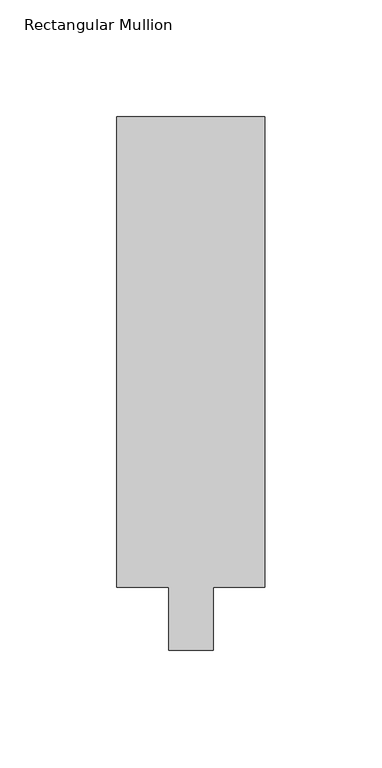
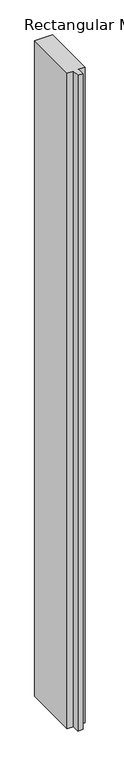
"""IFC4 building model written with IfcOpenShell, lengths in millimetres: member geometry."""

import ifcopenshell
import ifcopenshell.guid

model = None  # the IFC model being written
_history = None  # IfcOwnerHistory: only IFC2X3 demands one
_inside = {}  # id of a spatial element -> (the spatial element, [elements in it])
_under = {}  # id of a project, library or spatial element -> (it, [spatial elements below it])
_declared = {}  # id of a project -> (the project, [libraries it declares])
_typed = {}  # id of a type object -> (the type object, [elements of that type])
_made_of = {}  # id of a material, layer set ... -> (it, [elements and type objects made of it])


def new_model(schema):
    """Start an empty IFC model of exactly this schema.

    Asked for "IFC4X3", IfcOpenShell would pick the latest addendum, in which some entities
    have other attributes; the version numbers below select the first issue.
    IFC2X3 requires an IfcOwnerHistory on every rooted entity: one is made here for all.
    """
    global model, _history
    if schema == "IFC4X3":
        model = ifcopenshell.file(schema_version=(4, 3, 0, 0))
    else:
        model = ifcopenshell.file(schema=schema)
    _inside.clear()
    _under.clear()
    _declared.clear()
    _typed.clear()
    _made_of.clear()
    _history = None
    if model.schema == "IFC2X3":
        org = make("IfcOrganization", Name="unknown")
        user = make(
            "IfcPersonAndOrganization",
            ThePerson=make("IfcPerson", FamilyName="unknown"),
            TheOrganization=org,
        )
        app = make(
            "IfcApplication",
            ApplicationDeveloper=org,
            Version="unknown",
            ApplicationFullName="unknown",
            ApplicationIdentifier="unknown",
        )
        _history = make(
            "IfcOwnerHistory",
            OwningUser=user,
            OwningApplication=app,
            ChangeAction="ADDED",
            CreationDate=0,
        )
    return model


def make(cls, **values):
    """One entity of the class cls with the attributes given. An attribute that is None is left unset."""
    return model.create_entity(
        cls, **{name: value for name, value in values.items() if value is not None}
    )


def rooted(cls, **values):
    """An entity with a GlobalId (a new one), such as an element, a storey or a relation."""
    return make(cls, GlobalId=ifcopenshell.guid.new(), OwnerHistory=_history, **values)


def si_unit(unit_type, name, prefix=None):
    """IfcSIUnit, for example si_unit("LENGTHUNIT", "METRE", prefix="MILLI")."""
    return make("IfcSIUnit", UnitType=unit_type, Prefix=prefix, Name=name)


def assignment(units):
    """IfcUnitAssignment: the units of a project."""
    return None if units is None else make("IfcUnitAssignment", Units=units)


def point(xyz):
    """IfcCartesianPoint."""
    return None if xyz is None else make("IfcCartesianPoint", Coordinates=xyz)


def direction(xyz):
    """IfcDirection."""
    return None if xyz is None else make("IfcDirection", DirectionRatios=xyz)


def frame(location, z_axis=None, x_axis=None):
    """IfcAxis2Placement3D, a coordinate frame: its origin and axes. An axis left out is left unset."""
    return make(
        "IfcAxis2Placement3D",
        Location=point(location),
        Axis=direction(z_axis),
        RefDirection=direction(x_axis),
    )


def origin():
    """The frame at (0, 0, 0) with its axes left unset."""
    return frame((0.0, 0.0, 0.0))


def place(relative_to, where):
    """IfcLocalPlacement: puts the frame where relative to a parent placement (None: the world)."""
    return make(
        "IfcLocalPlacement", PlacementRelTo=relative_to, RelativePlacement=where
    )


def context(
    kind, dimensions, precision=None, world=None, true_north=None, identifier=None
):
    """IfcGeometricRepresentationContext, for example the 3D "Model" context."""
    return make(
        "IfcGeometricRepresentationContext",
        ContextIdentifier=identifier,
        ContextType=kind,
        CoordinateSpaceDimension=dimensions,
        Precision=precision,
        WorldCoordinateSystem=world,
        TrueNorth=true_north,
    )


def project(units=None, contexts=None):
    """IfcProject with its units and contexts."""
    return rooted(
        "IfcProject",
        Name="project",
        RepresentationContexts=contexts,
        UnitsInContext=assignment(units),
    )


def spatial(cls, under=None, at=None, **own):
    """A site, building, storey or space (cls), placed at a placement, below another one or the project."""
    s = rooted(cls, ObjectPlacement=at, **own)
    if under is not None:
        _under.setdefault(under.id(), (under, []))[1].append(s)
    return s


def polyline(points):
    """IfcPolyline through the points."""
    return make("IfcPolyline", Points=[point(p) for p in points])


def outline(outer, holes=None, kind="AREA"):
    """IfcArbitraryClosedProfileDef: a profile drawn as a closed curve; with holes, ...WithVoids."""
    if holes is None:
        return make("IfcArbitraryClosedProfileDef", ProfileType=kind, OuterCurve=outer)
    return make(
        "IfcArbitraryProfileDefWithVoids",
        ProfileType=kind,
        OuterCurve=outer,
        InnerCurves=holes,
    )


def extrude(swept, where, along, depth):
    """IfcExtrudedAreaSolid: the profile swept, set in the frame where, extruded along a direction by depth."""
    return make(
        "IfcExtrudedAreaSolid",
        SweptArea=swept,
        Position=where,
        ExtrudedDirection=direction(along),
        Depth=depth,
    )


def shape(context_of_items, identifier, shape_type, items):
    """IfcShapeRepresentation: the items that make up one representation, for example the "Body"."""
    return make(
        "IfcShapeRepresentation",
        ContextOfItems=context_of_items,
        RepresentationIdentifier=identifier,
        RepresentationType=shape_type,
        Items=items,
    )


def source(mapping_origin, context_of_items, identifier, shape_type, items):
    """IfcRepresentationMap: a shape defined once, which mapped items show again and again."""
    return make(
        "IfcRepresentationMap",
        MappingOrigin=mapping_origin,
        MappedRepresentation=shape(context_of_items, identifier, shape_type, items),
    )


def transform(
    local_origin,
    x_axis=None,
    y_axis=None,
    z_axis=None,
    scale=None,
    scale2=None,
    scale3=None,
    uniform=True,
):
    """IfcCartesianTransformationOperator3D, or its non-uniform kind. x_axis, y_axis, z_axis: its Axis1, 2, 3."""
    if uniform:
        return make(
            "IfcCartesianTransformationOperator3D",
            Axis1=direction(x_axis),
            Axis2=direction(y_axis),
            LocalOrigin=point(local_origin),
            Scale=scale,
            Axis3=direction(z_axis),
        )
    return make(
        "IfcCartesianTransformationOperator3DnonUniform",
        Axis1=direction(x_axis),
        Axis2=direction(y_axis),
        LocalOrigin=point(local_origin),
        Scale=scale,
        Axis3=direction(z_axis),
        Scale2=scale2,
        Scale3=scale3,
    )


def mapped(mapping_source, mapping_target):
    """IfcMappedItem: shows the shape of a source again, moved by a transform."""
    return make(
        "IfcMappedItem", MappingSource=mapping_source, MappingTarget=mapping_target
    )


def made_of(thing, what):
    """Note that an element or type object is made of a material, layer set ...; save() writes the relation."""
    if what is not None:
        _made_of.setdefault(what.id(), (what, []))[1].append(thing)
    return thing


def element(
    cls,
    number,
    at=None,
    inside=None,
    cuts=None,
    type_object=None,
    material=None,
    context=None,
    identifier="Body",
    shape_type=None,
    held_by="IfcProductDefinitionShape",
    body=None,
    shapes=None,
    **own,
):
    """One element of the class cls, such as IfcWall. Its Tag is "e" and its number.

    at: its placement. inside: the storey or other place that contains it. cuts: it is an
    opening in that element (IfcRelVoidsElement). A single representation is given by context,
    identifier, shape_type and body (its items); several are given by shapes. held_by: the class
    of the entity that holds the representations. save() writes the other relations.
    """
    e = rooted(cls, Tag="e%d" % number, ObjectPlacement=at, **own)
    if body is not None:
        shapes = [shape(context, identifier, shape_type, body)]
    if shapes is not None:
        e.Representation = make(held_by, Representations=shapes)
    if inside is not None:
        _inside.setdefault(inside.id(), (inside, []))[1].append(e)
    if cuts is not None:
        rooted(
            "IfcRelVoidsElement", RelatingBuildingElement=cuts, RelatedOpeningElement=e
        )
    if type_object is not None:
        _typed.setdefault(type_object.id(), (type_object, []))[1].append(e)
    return made_of(e, material)


def aggregate(whole, parts):
    """IfcRelAggregates: a whole, such as a stair, and the parts it consists of."""
    return rooted("IfcRelAggregates", RelatingObject=whole, RelatedObjects=parts)


def save(model, path):
    """Write the relations noted so far, then the file.

    IfcRelAggregates (storeys below a building ...), IfcRelContainedInSpatialStructure (elements
    in a storey), IfcRelDefinesByType, IfcRelAssociatesMaterial and IfcRelDeclares: one each for
    every whole, place, type object, material and project.
    """
    for whole, parts in _under.values():
        aggregate(whole, parts)
    for where, things in _inside.values():
        rooted(
            "IfcRelContainedInSpatialStructure",
            RelatedElements=things,
            RelatingStructure=where,
        )
    for kind, things in _typed.values():
        rooted("IfcRelDefinesByType", RelatedObjects=things, RelatingType=kind)
    for what, things in _made_of.values():
        rooted("IfcRelAssociatesMaterial", RelatedObjects=things, RelatingMaterial=what)
    for by, libraries in _declared.values():
        rooted("IfcRelDeclares", RelatingContext=by, RelatedDefinitions=libraries)
    model.write(path)


def rectangular_mullion_bcc6d2c9(model_context):
    return source(origin(), model_context, "Body", "SweptSolid", [
        extrude(outline(polyline([(0.0, 228.6), (0.0, 26.9875), (-22.225, 26.9875), (-22.225, 0.0), (-41.275, 0.0), (-41.275, 26.9875), (-63.5, 26.9875), (-63.5, 228.6), (0.0, 228.6)])), frame((0.0, 0.0, -2478.9997487), z_axis=(0.0, 0.0, 1.0), x_axis=(1.0, 0.0, 0.0)), (0.0, 0.0, 1.0), 2478.9997487),
    ])


if __name__ == "__main__":
    model = new_model("IFC4")
    model_context = context("Model", 3, world=origin())
    ifc_project = project(units=[si_unit("LENGTHUNIT", "METRE", prefix="MILLI")], contexts=[model_context])
    site = spatial("IfcSite", under=ifc_project)
    building = spatial("IfcBuilding", under=site)
    placement = place(None, origin())
    rectangular_mullion_shape = rectangular_mullion_bcc6d2c9(model_context)
    element("IfcMember", 1, ObjectType="Rectangular Mullion : 2 1/2\" x 8\" - Capless", at=placement, inside=building, context=model_context, shape_type="MappedRepresentation", body=[
        mapped(rectangular_mullion_shape, transform((0.0, 0.0, 0.0), x_axis=(1.0, 0.0, 0.0), y_axis=(0.0, 1.0, 0.0), z_axis=(0.0, 0.0, 1.0))),
    ])
    save(model, "model.ifc")
